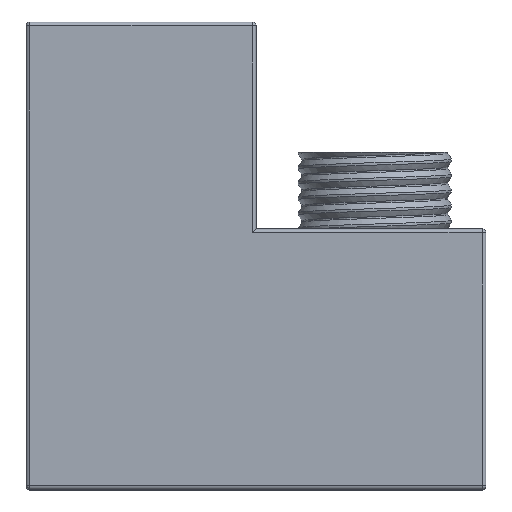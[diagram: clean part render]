
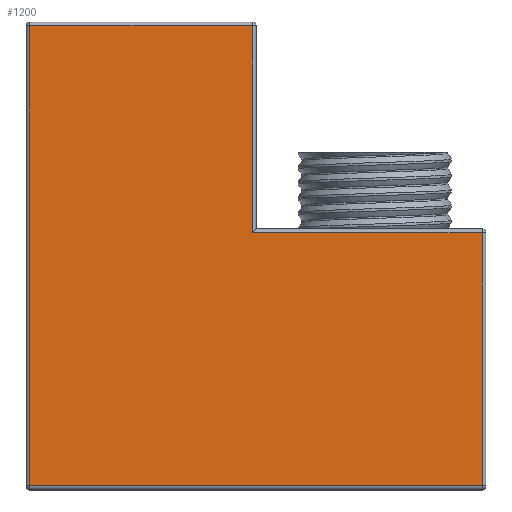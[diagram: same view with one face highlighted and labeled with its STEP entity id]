
A CAD part, top view. The second image highlights one B-rep face of the part: STEP entity #1200.
In plain terms, the highlighted planar face has unit normal (0, 0, 1) as drawn and (1, 0, 0) by its records, which use the part's own axes.
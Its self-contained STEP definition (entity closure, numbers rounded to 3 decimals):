
#93=DIRECTION('',(0.,0.,-1.));
#94=VECTOR('',#93,27.);
#95=CARTESIAN_POINT('',(36.,-26.5,65.));
#96=LINE('',#95,#94);
#193=DIRECTION('',(0.,1.,0.));
#194=VECTOR('',#193,29.);
#195=CARTESIAN_POINT('',(36.,-55.5,65.));
#196=LINE('',#195,#194);
#201=DIRECTION('',(0.,0.,1.));
#202=VECTOR('',#201,60.);
#203=CARTESIAN_POINT('',(36.,-55.5,5.));
#204=LINE('',#203,#202);
#228=DIRECTION('',(0.,-1.,0.));
#229=VECTOR('',#228,59.);
#230=CARTESIAN_POINT('',(36.,3.5,5.));
#231=LINE('',#230,#229);
#765=DIRECTION('',(0.,1.,0.));
#766=VECTOR('',#765,30.);
#767=CARTESIAN_POINT('',(36.,-26.5,38.));
#768=LINE('',#767,#766);
#788=DIRECTION('',(0.,0.,-1.));
#789=VECTOR('',#788,33.);
#790=CARTESIAN_POINT('',(36.,3.5,38.));
#791=LINE('',#790,#789);
#835=CARTESIAN_POINT('',(36.,-55.5,5.));
#836=CARTESIAN_POINT('',(36.,-55.5,65.));
#837=VERTEX_POINT('',#835);
#838=VERTEX_POINT('',#836);
#839=CARTESIAN_POINT('',(36.,3.5,5.));
#840=VERTEX_POINT('',#839);
#841=CARTESIAN_POINT('',(36.,3.5,38.));
#842=VERTEX_POINT('',#841);
#843=CARTESIAN_POINT('',(36.,-26.5,38.));
#844=VERTEX_POINT('',#843);
#845=CARTESIAN_POINT('',(36.,-26.5,65.));
#846=VERTEX_POINT('',#845);
#1183=CARTESIAN_POINT('',(36.,-56.,61.));
#1184=DIRECTION('',(1.,0.,0.));
#1185=DIRECTION('',(0.,0.,-1.));
#1186=AXIS2_PLACEMENT_3D('',#1183,#1184,#1185);
#1187=PLANE('',#1186);
#1189=ORIENTED_EDGE('',*,*,#1188,.T.);
#1190=ORIENTED_EDGE('',*,*,#1176,.T.);
#1191=ORIENTED_EDGE('',*,*,#1047,.T.);
#1193=ORIENTED_EDGE('',*,*,#1192,.T.);
#1195=ORIENTED_EDGE('',*,*,#1194,.T.);
#1197=ORIENTED_EDGE('',*,*,#1196,.T.);
#1198=EDGE_LOOP('',(#1189,#1190,#1191,#1193,#1195,#1197));
#1199=FACE_OUTER_BOUND('',#1198,.F.);
#1200=ADVANCED_FACE('',(#1199),#1187,.T.);
#1047=EDGE_CURVE('',#846,#844,#96,.T.);
#1176=EDGE_CURVE('',#838,#846,#196,.T.);
#1188=EDGE_CURVE('',#837,#838,#204,.T.);
#1192=EDGE_CURVE('',#844,#842,#768,.T.);
#1194=EDGE_CURVE('',#842,#840,#791,.T.);
#1196=EDGE_CURVE('',#840,#837,#231,.T.);
